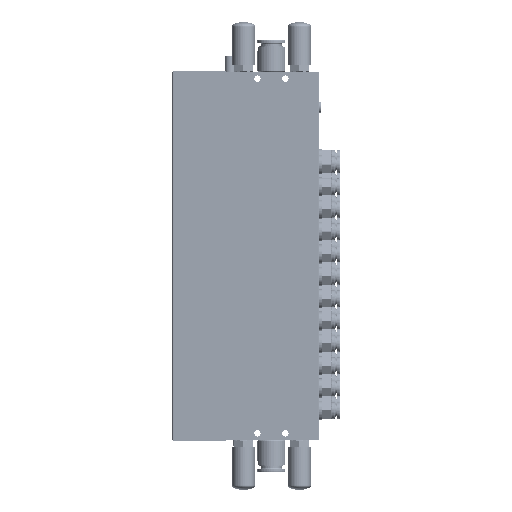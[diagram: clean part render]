
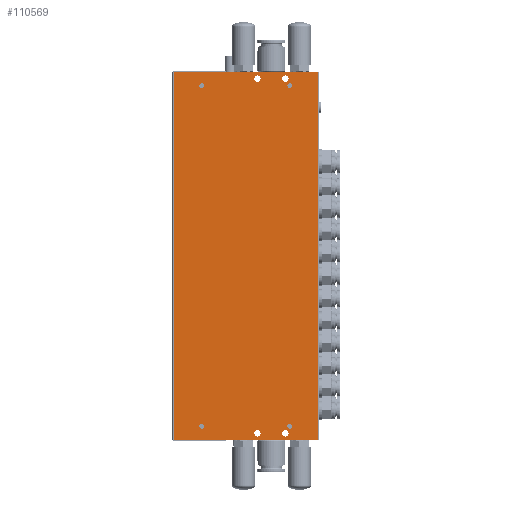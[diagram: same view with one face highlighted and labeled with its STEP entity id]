
A CAD part, front view. The second image highlights one B-rep face of the part: STEP entity #110569.
In plain terms, the highlighted planar face has unit normal (0, -1, 0).
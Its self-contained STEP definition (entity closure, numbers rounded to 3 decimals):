
#68571=LINE('',#372805,#83597);
#68578=LINE('',#372931,#83604);
#68579=LINE('',#372933,#83605);
#68580=LINE('',#372935,#83606);
#68581=LINE('',#372938,#83607);
#68582=LINE('',#372942,#83608);
#83597=VECTOR('',#296048,1.);
#83604=VECTOR('',#296085,1.);
#83605=VECTOR('',#296088,1.);
#83606=VECTOR('',#296089,1.);
#83607=VECTOR('',#296092,1.);
#83608=VECTOR('',#296095,1.);
#102345=PLANE('',#267502);
#106866=FACE_BOUND('',#133621,.T.);
#106867=FACE_BOUND('',#133622,.T.);
#106868=FACE_BOUND('',#133623,.T.);
#106869=FACE_BOUND('',#133624,.T.);
#106870=FACE_BOUND('',#133625,.T.);
#106871=FACE_BOUND('',#133626,.T.);
#106872=FACE_BOUND('',#133627,.T.);
#106873=FACE_BOUND('',#133628,.T.);
#106874=FACE_BOUND('',#133629,.T.);
#110569=ADVANCED_FACE('',(#106866,#106867,#106868,#106869,#106870,#106871,
#106872,#106873,#106874),#102345,.T.);
#133621=EDGE_LOOP('',(#164832,#164833,#164834,#164835));
#133622=EDGE_LOOP('',(#164836));
#133623=EDGE_LOOP('',(#164837));
#133624=EDGE_LOOP('',(#164838));
#133625=EDGE_LOOP('',(#164839));
#133626=EDGE_LOOP('',(#164840,#164841));
#133627=EDGE_LOOP('',(#164842,#164843));
#133628=EDGE_LOOP('',(#164844));
#133629=EDGE_LOOP('',(#164845));
#146254=CIRCLE('',#267473,1.65);
#146255=CIRCLE('',#267475,2.25);
#146257=CIRCLE('',#267478,2.25);
#146268=CIRCLE('',#267497,1.65);
#146269=CIRCLE('',#267498,1.65);
#146270=CIRCLE('',#267499,1.65);
#146271=CIRCLE('',#267500,2.25);
#146272=CIRCLE('',#267501,2.25);
#164832=ORIENTED_EDGE('',*,*,#238027,.T.);
#164833=ORIENTED_EDGE('',*,*,#238028,.T.);
#164834=ORIENTED_EDGE('',*,*,#238029,.T.);
#164835=ORIENTED_EDGE('',*,*,#238010,.F.);
#164836=ORIENTED_EDGE('',*,*,#238008,.F.);
#164837=ORIENTED_EDGE('',*,*,#238006,.F.);
#164838=ORIENTED_EDGE('',*,*,#238030,.T.);
#164839=ORIENTED_EDGE('',*,*,#238005,.T.);
#164840=ORIENTED_EDGE('',*,*,#238031,.F.);
#164841=ORIENTED_EDGE('',*,*,#238032,.F.);
#164842=ORIENTED_EDGE('',*,*,#238033,.F.);
#164843=ORIENTED_EDGE('',*,*,#238034,.F.);
#164844=ORIENTED_EDGE('',*,*,#238035,.F.);
#164845=ORIENTED_EDGE('',*,*,#238036,.F.);
#217858=VERTEX_POINT('',#372793);
#217859=VERTEX_POINT('',#372796);
#217861=VERTEX_POINT('',#372801);
#217863=VERTEX_POINT('',#372806);
#217864=VERTEX_POINT('',#372807);
#217878=VERTEX_POINT('',#372930);
#217879=VERTEX_POINT('',#372934);
#217880=VERTEX_POINT('',#372937);
#217881=VERTEX_POINT('',#372939);
#217882=VERTEX_POINT('',#372940);
#217883=VERTEX_POINT('',#372943);
#217884=VERTEX_POINT('',#372944);
#217885=VERTEX_POINT('',#372947);
#217886=VERTEX_POINT('',#372949);
#238005=EDGE_CURVE('',#217858,#217858,#146254,.T.);
#238006=EDGE_CURVE('',#217859,#217859,#146255,.T.);
#238008=EDGE_CURVE('',#217861,#217861,#146257,.T.);
#238010=EDGE_CURVE('',#217863,#217864,#68571,.T.);
#238027=EDGE_CURVE('',#217863,#217878,#68578,.T.);
#238028=EDGE_CURVE('',#217878,#217879,#68579,.T.);
#238029=EDGE_CURVE('',#217879,#217864,#68580,.T.);
#238030=EDGE_CURVE('',#217880,#217880,#146268,.T.);
#238031=EDGE_CURVE('',#217881,#217882,#68581,.T.);
#238032=EDGE_CURVE('',#217882,#217881,#146269,.T.);
#238033=EDGE_CURVE('',#217883,#217884,#68582,.T.);
#238034=EDGE_CURVE('',#217884,#217883,#146270,.T.);
#238035=EDGE_CURVE('',#217885,#217885,#146271,.T.);
#238036=EDGE_CURVE('',#217886,#217886,#146272,.T.);
#267473=AXIS2_PLACEMENT_3D('',#372792,#296032,#296033);
#267475=AXIS2_PLACEMENT_3D('',#372795,#296036,#296037);
#267478=AXIS2_PLACEMENT_3D('',#372800,#296042,#296043);
#267497=AXIS2_PLACEMENT_3D('',#372936,#296090,#296091);
#267498=AXIS2_PLACEMENT_3D('',#372941,#296093,#296094);
#267499=AXIS2_PLACEMENT_3D('',#372945,#296096,#296097);
#267500=AXIS2_PLACEMENT_3D('',#372946,#296098,#296099);
#267501=AXIS2_PLACEMENT_3D('',#372948,#296100,#296101);
#267502=AXIS2_PLACEMENT_3D('',#372950,#296102,#296103);
#296032=DIRECTION('',(0.,1.,0.));
#296033=DIRECTION('',(0.,0.,-1.));
#296036=DIRECTION('',(0.,-1.,0.));
#296037=DIRECTION('',(0.,0.,-1.));
#296042=DIRECTION('',(0.,-1.,0.));
#296043=DIRECTION('',(0.,0.,-1.));
#296048=DIRECTION('',(1.,0.,0.));
#296085=DIRECTION('',(0.,0.,-1.));
#296088=DIRECTION('',(1.,0.,0.));
#296089=DIRECTION('',(0.,0.,1.));
#296090=DIRECTION('',(0.,1.,0.));
#296091=DIRECTION('',(0.,0.,-1.));
#296092=DIRECTION('',(-1.,0.,0.));
#296093=DIRECTION('',(0.,-1.,0.));
#296094=DIRECTION('',(0.,0.,1.));
#296095=DIRECTION('',(-1.,0.,0.));
#296096=DIRECTION('',(0.,-1.,0.));
#296097=DIRECTION('',(0.,0.,1.));
#296098=DIRECTION('',(0.,-1.,0.));
#296099=DIRECTION('',(0.,0.,-1.));
#296100=DIRECTION('',(0.,-1.,0.));
#296101=DIRECTION('',(0.,0.,-1.));
#296102=DIRECTION('',(0.,-1.,0.));
#296103=DIRECTION('',(0.,0.,-1.));
#372792=CARTESIAN_POINT('',(31.5,-33.8,62.));
#372793=CARTESIAN_POINT('',(31.5,-33.8,60.35));
#372795=CARTESIAN_POINT('',(28.5,-33.8,67.));
#372796=CARTESIAN_POINT('',(28.5,-33.8,64.75));
#372800=CARTESIAN_POINT('',(8.5,-33.8,67.));
#372801=CARTESIAN_POINT('',(8.5,-33.8,64.75));
#372805=CARTESIAN_POINT('',(-52.5,-33.8,72.));
#372806=CARTESIAN_POINT('',(-51.5,-33.8,72.));
#372807=CARTESIAN_POINT('',(51.5,-33.8,72.));
#372930=CARTESIAN_POINT('',(-51.5,-33.8,-192.));
#372931=CARTESIAN_POINT('',(-51.5,-33.8,-56.));
#372933=CARTESIAN_POINT('',(-52.5,-33.8,-192.));
#372934=CARTESIAN_POINT('',(51.5,-33.8,-192.));
#372935=CARTESIAN_POINT('',(51.5,-33.8,-56.));
#372936=CARTESIAN_POINT('',(-31.5,-33.8,62.));
#372937=CARTESIAN_POINT('',(-31.5,-33.8,60.35));
#372938=CARTESIAN_POINT('',(-52.5,-33.8,-180.55));
#372939=CARTESIAN_POINT('',(32.287,-33.8,-180.55));
#372940=CARTESIAN_POINT('',(30.713,-33.8,-180.55));
#372941=CARTESIAN_POINT('',(31.5,-33.8,-182.));
#372942=CARTESIAN_POINT('',(-52.5,-33.8,-180.55));
#372943=CARTESIAN_POINT('',(-30.713,-33.8,-180.55));
#372944=CARTESIAN_POINT('',(-32.287,-33.8,-180.55));
#372945=CARTESIAN_POINT('',(-31.5,-33.8,-182.));
#372946=CARTESIAN_POINT('',(8.5,-33.8,-187.));
#372947=CARTESIAN_POINT('',(8.5,-33.8,-189.25));
#372948=CARTESIAN_POINT('',(28.5,-33.8,-187.));
#372949=CARTESIAN_POINT('',(28.5,-33.8,-189.25));
#372950=CARTESIAN_POINT('',(-52.5,-33.8,-56.));
